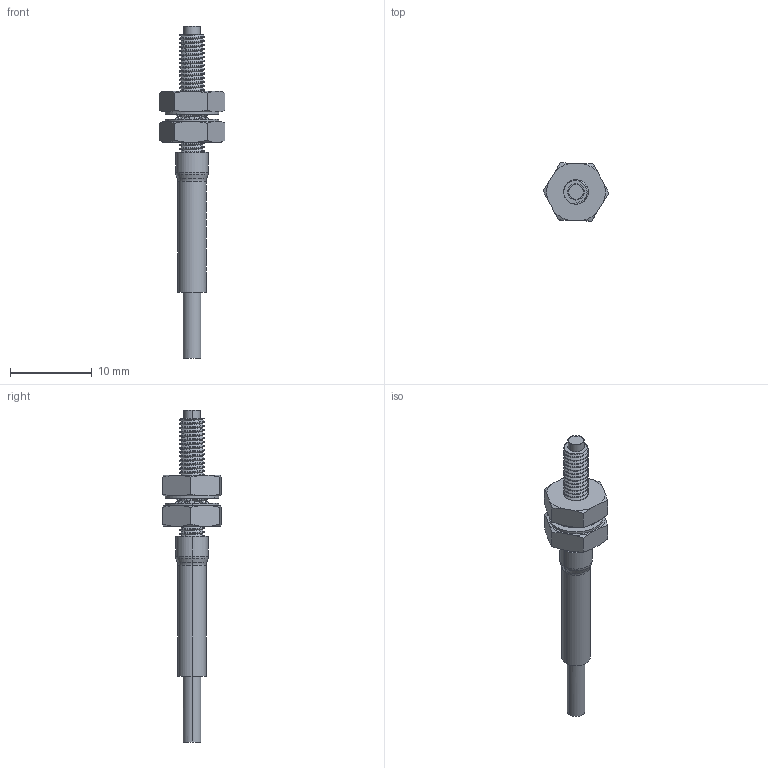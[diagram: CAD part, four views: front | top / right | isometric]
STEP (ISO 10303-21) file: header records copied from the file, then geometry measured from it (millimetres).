
FILE_DESCRIPTION (( 'STEP AP214' ), '1' );
FILE_NAME ('PT-42.STEP', '2015-09-24T07:56:34', ( '' ), ( '' ), 'SwSTEP 2.0', 'SolidWorks 2013', '' );
FILE_SCHEMA (( 'AUTOMOTIVE_DESIGN' ));
Length unit declared in the file: millimetre
Products named in the file (1): PT-42
Bounding box: 8.08 x 7.15 x 40.69 mm (x, y, z)
Volume: 453 mm3; surface area: 1080.1 mm2
Topology: 4 solids, 4 shells, 428 faces, 1198 edges, 788 vertices
Faces by surface type: plane 251, cylinder 118, cone 32, bspline 19, torus 8
Entity records: 19822 total; most frequent: CARTESIAN_POINT 7219, ORIENTED_EDGE 2396, DIRECTION 1927, EDGE_CURVE 1198, VERTEX_POINT 788, VECTOR 699, LINE 699, AXIS2_PLACEMENT_3D 614
